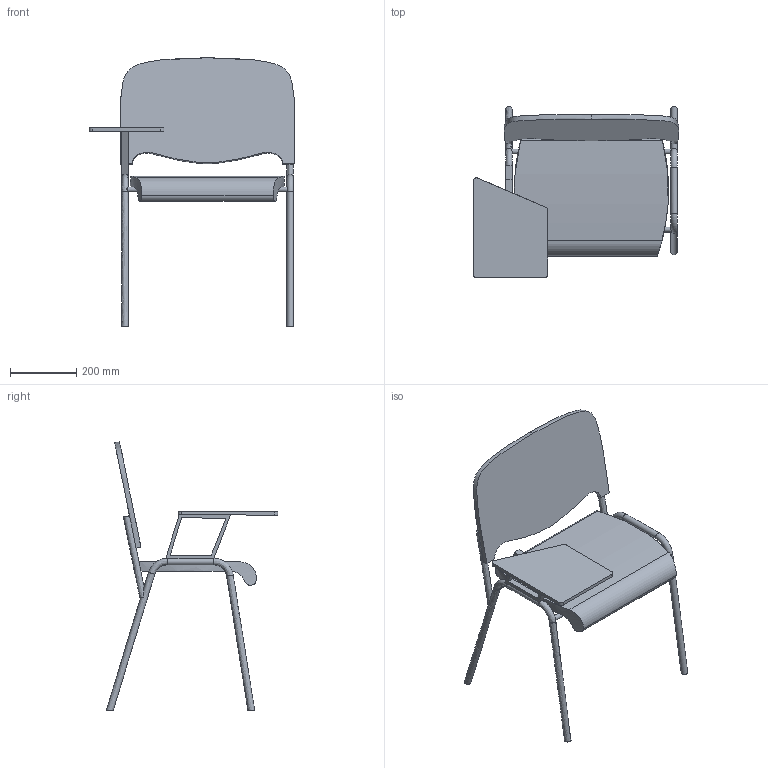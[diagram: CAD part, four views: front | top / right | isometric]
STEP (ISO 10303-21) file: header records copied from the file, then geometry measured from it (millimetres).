
FILE_DESCRIPTION((''),'2;1');
FILE_NAME('G:\0767002\MP-Orgatech-11202.stp','2007-06-17T21:24:13',('Administrator WH'),(''),'Autodesk Inventor 2008','Autodesk Inventor 2008','');
FILE_SCHEMA(('AUTOMOTIVE_DESIGN { 1 0 10303 214 1 1 1 1 }'));
Length unit declared in the file: millimetre
Products named in the file (1): MP-Orgatech-11202
Bounding box: 622.39 x 519.08 x 812.99 mm (x, y, z)
Volume: 9510717.7 mm3; surface area: 1089386.8 mm2
Topology: 3 solids, 3 shells, 59 faces, 149 edges, 96 vertices
Faces by surface type: plane 26, bspline 17, cylinder 14, torus 2
Full cylindrical faces by diameter (mm): 15 x1, 20 x3
Entity records: 9572 total; most frequent: CARTESIAN_POINT 8225, ORIENTED_EDGE 260, DIRECTION 212, EDGE_CURVE 130, VERTEX_POINT 84, EDGE_LOOP 78, AXIS2_PLACEMENT_3D 73, VECTOR 66
